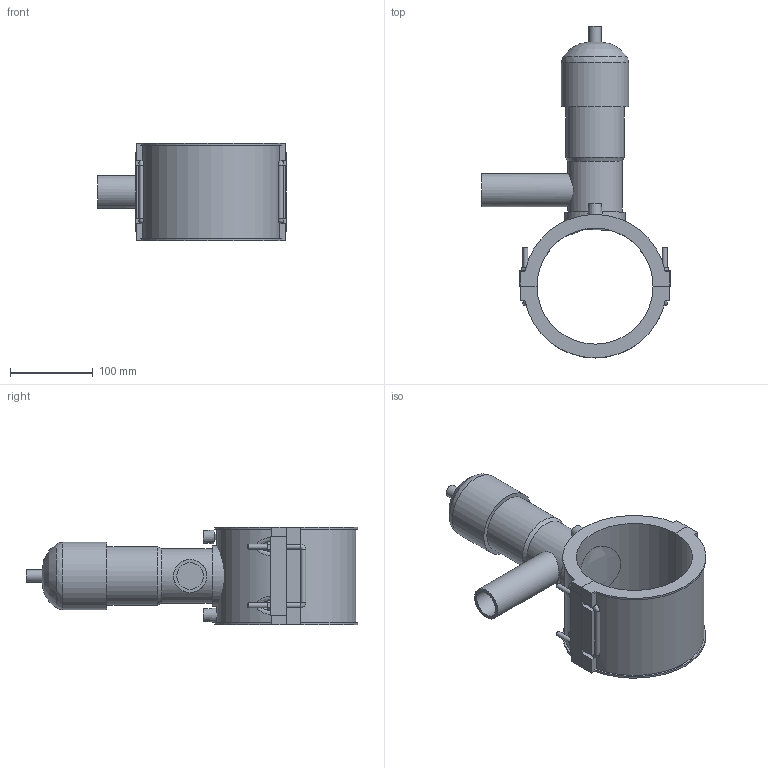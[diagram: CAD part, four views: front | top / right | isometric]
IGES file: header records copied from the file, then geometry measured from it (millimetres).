
Global section: file name: 495404140040.ipt; native system: Autodesk Inventor 2015; preprocessor: unknown; author: KIM; date: 20171106.094255; units: millimetre
Bounding box: 228 x 400.52 x 118 mm (x, y, z)
Volume: 1821452.4 mm3; surface area: 243937.6 mm2
Topology: 3 solids, 5 shells, 157 faces, 388 edges, 246 vertices
Faces by surface type: plane 93, cylinder 29, revolution 16, bspline 12, cone 7
Full cylindrical faces by diameter (mm): 4 x2, 6 x8, 14.64 x1, 40 x1, 65.88 x1, 70.76 x1, 73.2 x1, 81.333 x1
